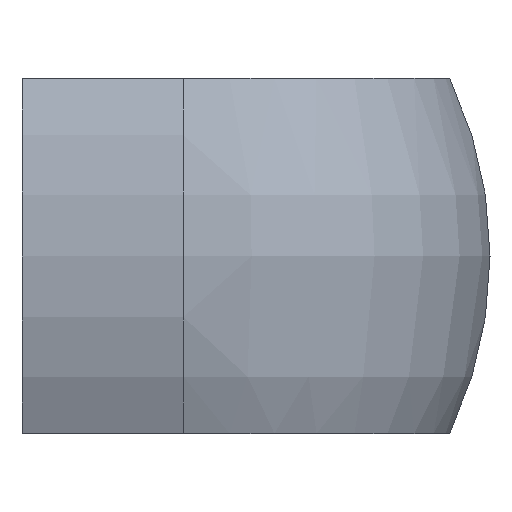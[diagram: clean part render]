
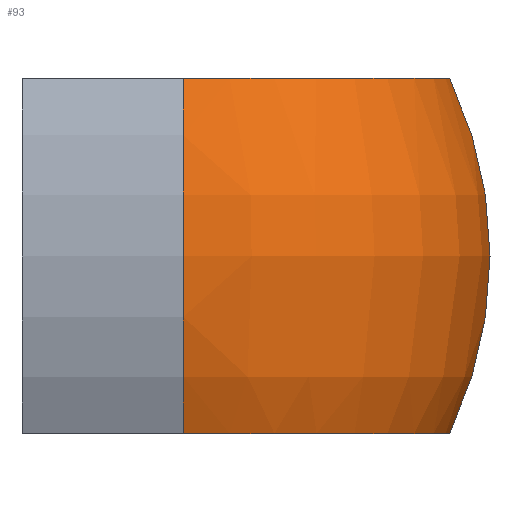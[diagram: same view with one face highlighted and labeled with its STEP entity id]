
A CAD part, left-side view. The second image highlights one B-rep face of the part: STEP entity #93.
In plain terms, the highlighted toroidal (fillet/blend) face has major radius 6.45 mm and minor radius 25.45 mm.
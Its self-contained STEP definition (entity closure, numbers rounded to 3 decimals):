
#93 = ADVANCED_FACE( '', ( #139 ), #140, .T. );
#139 = FACE_OUTER_BOUND( '', #193, .T. );
#140 = TOROIDAL_SURFACE( '', #194, -6.45, 25.45 );
#193 = EDGE_LOOP( '', ( #338, #339, #340, #341 ) );
#194 = AXIS2_PLACEMENT_3D( '', #342, #343, #344 );
#338 = ORIENTED_EDGE( '', *, *, #471, .F. );
#339 = ORIENTED_EDGE( '', *, *, #472, .F. );
#340 = ORIENTED_EDGE( '', *, *, #465, .F. );
#341 = ORIENTED_EDGE( '', *, *, #473, .T. );
#342 = CARTESIAN_POINT( '', ( 15.05, -10., 0. ) );
#343 = DIRECTION( '', ( 0., 0., -1. ) );
#344 = DIRECTION( '', ( -1., 0., 0. ) );
#465 = EDGE_CURVE( '', #561, #563, #564, .T. );
#471 = EDGE_CURVE( '', #573, #574, #575, .T. );
#472 = EDGE_CURVE( '', #563, #573, #576, .T. );
#473 = EDGE_CURVE( '', #561, #574, #577, .T. );
#561 = VERTEX_POINT( '', #687 );
#563 = VERTEX_POINT( '', #690 );
#564 = CIRCLE( '', #691, 25.45 );
#573 = VERTEX_POINT( '', #703 );
#574 = VERTEX_POINT( '', #704 );
#575 = CIRCLE( '', #705, 25.45 );
#576 = CIRCLE( '', #706, 16.5 );
#577 = CIRCLE( '', #707, 16.5 );
#687 = CARTESIAN_POINT( '', ( 15.05, -26.5, 11. ) );
#690 = CARTESIAN_POINT( '', ( 15.05, -26.5, -11. ) );
#691 = AXIS2_PLACEMENT_3D( '', #835, #836, #837 );
#703 = CARTESIAN_POINT( '', ( -1.45, -10., -11. ) );
#704 = CARTESIAN_POINT( '', ( -1.45, -10., 11. ) );
#705 = AXIS2_PLACEMENT_3D( '', #847, #848, #849 );
#706 = AXIS2_PLACEMENT_3D( '', #850, #851, #852 );
#707 = AXIS2_PLACEMENT_3D( '', #853, #854, #855 );
#835 = CARTESIAN_POINT( '', ( 15.05, -3.55, 0. ) );
#836 = DIRECTION( '', ( 1., 0., 0. ) );
#837 = DIRECTION( '', ( 0., -0.902, 0.432 ) );
#847 = CARTESIAN_POINT( '', ( 21.5, -10., 0. ) );
#848 = DIRECTION( '', ( 0., 1., 0. ) );
#849 = DIRECTION( '', ( -1., 0., 0. ) );
#850 = CARTESIAN_POINT( '', ( 15.05, -10., -11. ) );
#851 = DIRECTION( '', ( 0., 0., -1. ) );
#852 = DIRECTION( '', ( 0., -1., 0. ) );
#853 = CARTESIAN_POINT( '', ( 15.05, -10., 11. ) );
#854 = DIRECTION( '', ( 0., 0., -1. ) );
#855 = DIRECTION( '', ( 0., -1., 0. ) );
